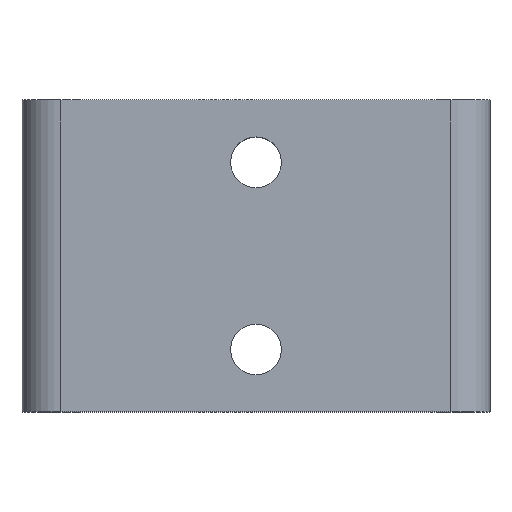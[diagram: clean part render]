
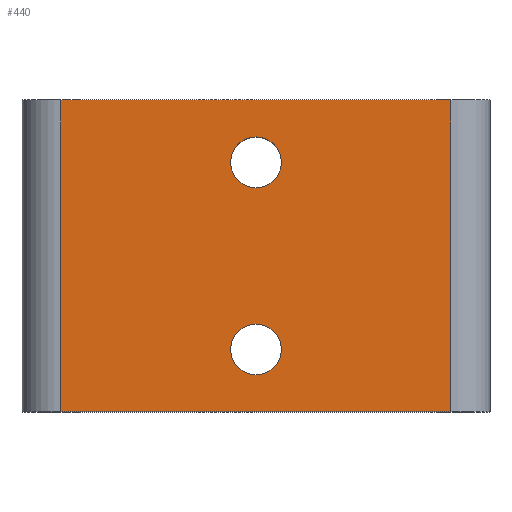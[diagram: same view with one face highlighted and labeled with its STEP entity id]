
A CAD part, top view. The second image highlights one B-rep face of the part: STEP entity #440.
In plain terms, the highlighted planar face has unit normal (0, 0, 1).
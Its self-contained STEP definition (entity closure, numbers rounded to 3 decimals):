
#21=DIRECTION('',(1.,0.,0.));
#22=VECTOR('',#21,50.);
#23=CARTESIAN_POINT('',(-50.,-20.,0.));
#24=LINE('',#23,#22);
#61=DIRECTION('',(1.,0.,0.));
#62=VECTOR('',#61,50.);
#63=CARTESIAN_POINT('',(-50.,20.,0.));
#64=LINE('',#63,#62);
#82=DIRECTION('',(0.,-1.,0.));
#83=VECTOR('',#82,40.);
#84=CARTESIAN_POINT('',(-50.,20.,0.));
#85=LINE('',#84,#83);
#100=DIRECTION('',(0.,1.,0.));
#101=VECTOR('',#100,40.);
#102=CARTESIAN_POINT('',(0.,-20.,0.));
#103=LINE('',#102,#101);
#109=CARTESIAN_POINT('',(-25.,-12.,0.));
#110=DIRECTION('',(0.,0.,-1.));
#111=DIRECTION('',(1.,0.,0.));
#112=AXIS2_PLACEMENT_3D('',#109,#110,#111);
#114=CARTESIAN_POINT('',(-25.,-12.,0.));
#115=DIRECTION('',(0.,0.,-1.));
#116=DIRECTION('',(-1.,0.,0.));
#117=AXIS2_PLACEMENT_3D('',#114,#115,#116);
#119=CARTESIAN_POINT('',(-25.,12.,0.));
#120=DIRECTION('',(0.,0.,-1.));
#121=DIRECTION('',(1.,0.,0.));
#122=AXIS2_PLACEMENT_3D('',#119,#120,#121);
#124=CARTESIAN_POINT('',(-25.,12.,0.));
#125=DIRECTION('',(0.,0.,-1.));
#126=DIRECTION('',(-1.,0.,0.));
#127=AXIS2_PLACEMENT_3D('',#124,#125,#126);
#213=CARTESIAN_POINT('',(0.,-20.,0.));
#214=VERTEX_POINT('',#213);
#215=CARTESIAN_POINT('',(0.,20.,0.));
#216=VERTEX_POINT('',#215);
#217=CARTESIAN_POINT('',(-21.75,-12.,0.));
#218=CARTESIAN_POINT('',(-28.25,-12.,0.));
#219=VERTEX_POINT('',#217);
#220=VERTEX_POINT('',#218);
#221=CARTESIAN_POINT('',(-21.75,12.,0.));
#222=CARTESIAN_POINT('',(-28.25,12.,0.));
#223=VERTEX_POINT('',#221);
#224=VERTEX_POINT('',#222);
#245=CARTESIAN_POINT('',(-50.,20.,0.));
#246=VERTEX_POINT('',#245);
#247=CARTESIAN_POINT('',(-50.,-20.,0.));
#248=VERTEX_POINT('',#247);
#417=CARTESIAN_POINT('',(-55.,-20.,0.));
#418=DIRECTION('',(0.,0.,1.));
#419=DIRECTION('',(1.,0.,0.));
#420=AXIS2_PLACEMENT_3D('',#417,#418,#419);
#421=PLANE('',#420);
#422=ORIENTED_EDGE('',*,*,#373,.F.);
#423=ORIENTED_EDGE('',*,*,#324,.T.);
#424=ORIENTED_EDGE('',*,*,#411,.F.);
#425=ORIENTED_EDGE('',*,*,#264,.F.);
#426=EDGE_LOOP('',(#422,#423,#424,#425));
#427=FACE_OUTER_BOUND('',#426,.F.);
#429=ORIENTED_EDGE('',*,*,#428,.F.);
#431=ORIENTED_EDGE('',*,*,#430,.F.);
#432=EDGE_LOOP('',(#429,#431));
#433=FACE_BOUND('',#432,.F.);
#435=ORIENTED_EDGE('',*,*,#434,.F.);
#437=ORIENTED_EDGE('',*,*,#436,.F.);
#438=EDGE_LOOP('',(#435,#437));
#439=FACE_BOUND('',#438,.F.);
#440=ADVANCED_FACE('',(#427,#433,#439),#421,.T.);
#113=CIRCLE('',#112,3.25);
#118=CIRCLE('',#117,3.25);
#123=CIRCLE('',#122,3.25);
#128=CIRCLE('',#127,3.25);
#264=EDGE_CURVE('',#248,#214,#24,.T.);
#324=EDGE_CURVE('',#246,#216,#64,.T.);
#373=EDGE_CURVE('',#246,#248,#85,.T.);
#411=EDGE_CURVE('',#214,#216,#103,.T.);
#428=EDGE_CURVE('',#219,#220,#113,.T.);
#430=EDGE_CURVE('',#220,#219,#118,.T.);
#434=EDGE_CURVE('',#223,#224,#123,.T.);
#436=EDGE_CURVE('',#224,#223,#128,.T.);
